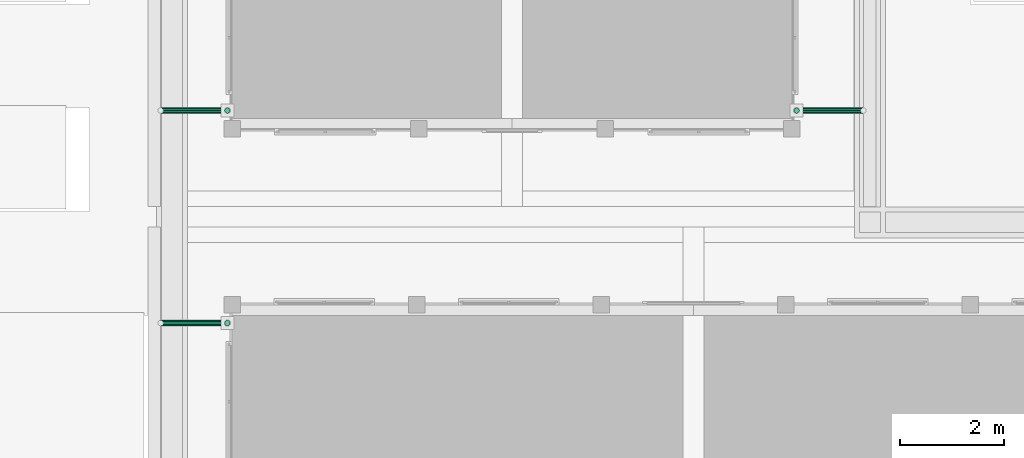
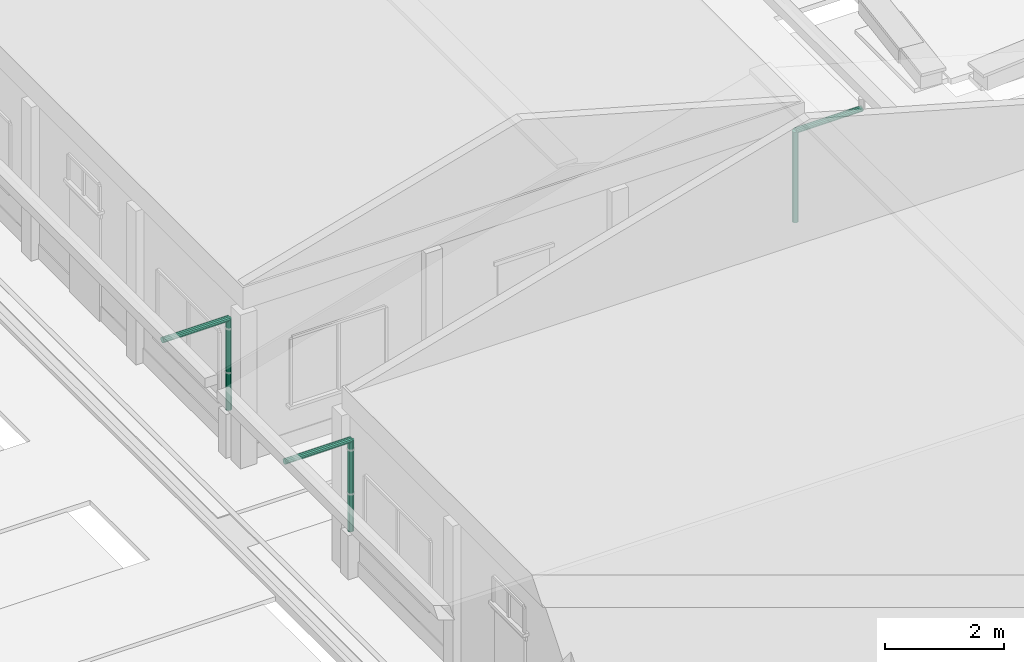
# One storey, part 100 of 177: 6 pipe segments.
"""IFC4 building model written with IfcOpenShell, lengths in metres."""

from ifc_helpers import new_model, si_unit, origin, origin_with_axes, place, context, subcontext, project, spatial, triangles, element, save


model = new_model("IFC4")

# Units and contexts
model_context = context("Model", 3, precision=1e-05, world=origin_with_axes())
body_context = subcontext(model_context, "Body", "Model", "MODEL_VIEW")
ifc_project = project(units=[si_unit("LENGTHUNIT", "METRE"), si_unit("AREAUNIT", "SQUARE_METRE"), si_unit("VOLUMEUNIT", "CUBIC_METRE"), si_unit("PLANEANGLEUNIT", "RADIAN")], contexts=[model_context])

# Site, building, storey
site_placement = place(None, origin_with_axes())
site = spatial("IfcSite", under=ifc_project, at=site_placement, Name="Predio Los Mangos - Morales, San Martín", CompositionType="ELEMENT")
building_placement = place(site_placement, origin())
building = spatial("IfcBuilding", under=site, at=building_placement, Name="Hogar de Refugio Temporal", CompositionType="ELEMENT")
storey_placement = place(building_placement, origin())
storey = spatial("IfcBuildingStorey", under=building, at=storey_placement, Name="NIVEL 1 (NPT +0.00)", CompositionType="ELEMENT", Elevation=0.0)

# Pipe segments
pipe_segment_1_placement = place(storey_placement, origin())
element("IfcPipeSegment", 1, at=pipe_segment_1_placement, inside=storey, Name="montante_desvio", ObjectType="Montante PVC 4\"", PredefinedType="RIGIDSEGMENT", context=body_context, shape_type="Tessellation", body=[
    triangles([(12.42, 48.35, 2.965), (13.71, 48.35, 2.965), (12.42, 48.3775, 2.9576), (13.71, 48.3775, 2.9576), (12.42, 48.3976, 2.9375), (13.71, 48.3976, 2.9375), (12.42, 48.405, 2.91), (13.71, 48.405, 2.91), (12.42, 48.3976, 2.8825), (13.71, 48.3976, 2.8825), (12.42, 48.3775, 2.8624), (13.71, 48.3775, 2.8624), (12.42, 48.35, 2.855), (13.71, 48.35, 2.855), (12.42, 48.3225, 2.8624), (13.71, 48.3225, 2.8624), (12.42, 48.3024, 2.8825), (13.71, 48.3024, 2.8825), (12.42, 48.295, 2.91), (13.71, 48.295, 2.91), (12.42, 48.3024, 2.9375), (13.71, 48.3024, 2.9375), (12.42, 48.3225, 2.9576), (13.71, 48.3225, 2.9576)], [[1, 2, 4], [1, 4, 3], [3, 4, 6], [3, 6, 5], [5, 6, 8], [5, 8, 7], [7, 8, 10], [7, 10, 9], [9, 10, 12], [9, 12, 11], [11, 12, 14], [11, 14, 13], [13, 14, 16], [13, 16, 15], [15, 16, 18], [15, 18, 17], [17, 18, 20], [17, 20, 19], [19, 20, 22], [19, 22, 21], [6, 4, 2], [2, 24, 22], [22, 20, 18], [18, 16, 14], [14, 12, 10], [10, 8, 6], [6, 2, 22], [22, 18, 14], [14, 10, 6], [22, 14, 6], [21, 22, 24], [21, 24, 23], [23, 24, 2], [23, 2, 1], [23, 1, 3], [3, 5, 7], [7, 9, 11], [11, 13, 15], [15, 17, 19], [19, 21, 23], [23, 3, 7], [7, 11, 15], [15, 19, 23], [7, 15, 23]]),
])
pipe_segment_2_placement = place(storey_placement, origin())
element("IfcPipeSegment", 2, at=pipe_segment_2_placement, inside=storey, Name="montante_bajada", ObjectType="Montante PVC 4\"", PredefinedType="RIGIDSEGMENT", context=body_context, shape_type="Tessellation", body=[
    triangles([(13.71, 48.405, 2.91), (13.71, 48.405, 1.05), (13.6825, 48.3976, 2.91), (13.6825, 48.3976, 1.05), (13.6624, 48.3775, 2.91), (13.6624, 48.3775, 1.05), (13.655, 48.35, 2.91), (13.655, 48.35, 1.05), (13.6624, 48.3225, 2.91), (13.6624, 48.3225, 1.05), (13.6825, 48.3024, 2.91), (13.6825, 48.3024, 1.05), (13.71, 48.295, 2.91), (13.71, 48.295, 1.05), (13.7375, 48.3024, 2.91), (13.7375, 48.3024, 1.05), (13.7576, 48.3225, 2.91), (13.7576, 48.3225, 1.05), (13.765, 48.35, 2.91), (13.765, 48.35, 1.05), (13.7576, 48.3775, 2.91), (13.7576, 48.3775, 1.05), (13.7375, 48.3976, 2.91), (13.7375, 48.3976, 1.05)], [[1, 2, 4], [1, 4, 3], [3, 4, 6], [3, 6, 5], [5, 6, 8], [5, 8, 7], [7, 8, 10], [7, 10, 9], [9, 10, 12], [9, 12, 11], [11, 12, 14], [11, 14, 13], [13, 14, 16], [13, 16, 15], [15, 16, 18], [15, 18, 17], [17, 18, 20], [17, 20, 19], [19, 20, 22], [19, 22, 21], [6, 4, 2], [2, 24, 22], [22, 20, 18], [18, 16, 14], [14, 12, 10], [10, 8, 6], [6, 2, 22], [22, 18, 14], [14, 10, 6], [22, 14, 6], [21, 22, 24], [21, 24, 23], [23, 24, 2], [23, 2, 1], [23, 1, 3], [3, 5, 7], [7, 9, 11], [11, 13, 15], [15, 17, 19], [19, 21, 23], [23, 3, 7], [7, 11, 15], [15, 19, 23], [7, 15, 23]]),
])
pipe_segment_3_placement = place(storey_placement, origin())
element("IfcPipeSegment", 3, at=pipe_segment_3_placement, inside=storey, Name="montante_desvio", ObjectType="Montante PVC 4\"", PredefinedType="RIGIDSEGMENT", context=body_context, shape_type="Tessellation", body=[
    triangles([(12.42, 52.45, 2.965), (13.71, 52.45, 2.965), (12.42, 52.4775, 2.9576), (13.71, 52.4775, 2.9576), (12.42, 52.4976, 2.9375), (13.71, 52.4976, 2.9375), (12.42, 52.505, 2.91), (13.71, 52.505, 2.91), (12.42, 52.4976, 2.8825), (13.71, 52.4976, 2.8825), (12.42, 52.4775, 2.8624), (13.71, 52.4775, 2.8624), (12.42, 52.45, 2.855), (13.71, 52.45, 2.855), (12.42, 52.4225, 2.8624), (13.71, 52.4225, 2.8624), (12.42, 52.4024, 2.8825), (13.71, 52.4024, 2.8825), (12.42, 52.395, 2.91), (13.71, 52.395, 2.91), (12.42, 52.4024, 2.9375), (13.71, 52.4024, 2.9375), (12.42, 52.4225, 2.9576), (13.71, 52.4225, 2.9576)], [[1, 2, 4], [1, 4, 3], [3, 4, 6], [3, 6, 5], [5, 6, 8], [5, 8, 7], [7, 8, 10], [7, 10, 9], [9, 10, 12], [9, 12, 11], [11, 12, 14], [11, 14, 13], [13, 14, 16], [13, 16, 15], [15, 16, 18], [15, 18, 17], [17, 18, 20], [17, 20, 19], [19, 20, 22], [19, 22, 21], [6, 4, 2], [2, 24, 22], [22, 20, 18], [18, 16, 14], [14, 12, 10], [10, 8, 6], [6, 2, 22], [22, 18, 14], [14, 10, 6], [22, 14, 6], [21, 22, 24], [21, 24, 23], [23, 24, 2], [23, 2, 1], [23, 1, 3], [3, 5, 7], [7, 9, 11], [11, 13, 15], [15, 17, 19], [19, 21, 23], [23, 3, 7], [7, 11, 15], [15, 19, 23], [7, 15, 23]]),
])
pipe_segment_4_placement = place(storey_placement, origin())
element("IfcPipeSegment", 4, at=pipe_segment_4_placement, inside=storey, Name="montante_bajada", ObjectType="Montante PVC 4\"", PredefinedType="RIGIDSEGMENT", context=body_context, shape_type="Tessellation", body=[
    triangles([(13.71, 52.505, 2.91), (13.71, 52.505, 1.05), (13.6825, 52.4976, 2.91), (13.6825, 52.4976, 1.05), (13.6624, 52.4775, 2.91), (13.6624, 52.4775, 1.05), (13.655, 52.45, 2.91), (13.655, 52.45, 1.05), (13.6624, 52.4225, 2.91), (13.6624, 52.4225, 1.05), (13.6825, 52.4024, 2.91), (13.6825, 52.4024, 1.05), (13.71, 52.395, 2.91), (13.71, 52.395, 1.05), (13.7375, 52.4024, 2.91), (13.7375, 52.4024, 1.05), (13.7576, 52.4225, 2.91), (13.7576, 52.4225, 1.05), (13.765, 52.45, 2.91), (13.765, 52.45, 1.05), (13.7576, 52.4775, 2.91), (13.7576, 52.4775, 1.05), (13.7375, 52.4976, 2.91), (13.7375, 52.4976, 1.05)], [[1, 2, 4], [1, 4, 3], [3, 4, 6], [3, 6, 5], [5, 6, 8], [5, 8, 7], [7, 8, 10], [7, 10, 9], [9, 10, 12], [9, 12, 11], [11, 12, 14], [11, 14, 13], [13, 14, 16], [13, 16, 15], [15, 16, 18], [15, 18, 17], [17, 18, 20], [17, 20, 19], [19, 20, 22], [19, 22, 21], [6, 4, 2], [2, 24, 22], [22, 20, 18], [18, 16, 14], [14, 12, 10], [10, 8, 6], [6, 2, 22], [22, 18, 14], [14, 10, 6], [22, 14, 6], [21, 22, 24], [21, 24, 23], [23, 24, 2], [23, 2, 1], [23, 1, 3], [3, 5, 7], [7, 9, 11], [11, 13, 15], [15, 17, 19], [19, 21, 23], [23, 3, 7], [7, 11, 15], [15, 19, 23], [7, 15, 23]]),
])
pipe_segment_5_placement = place(storey_placement, origin())
element("IfcPipeSegment", 5, at=pipe_segment_5_placement, inside=storey, Name="montante_desvio", ObjectType="Montante PVC 4\"", PredefinedType="RIGIDSEGMENT", context=body_context, shape_type="Tessellation", body=[
    triangles([(25.98, 52.45, 2.965), (24.69, 52.45, 2.965), (25.98, 52.4225, 2.9576), (24.69, 52.4225, 2.9576), (25.98, 52.4024, 2.9375), (24.69, 52.4024, 2.9375), (25.98, 52.395, 2.91), (24.69, 52.395, 2.91), (25.98, 52.4024, 2.8825), (24.69, 52.4024, 2.8825), (25.98, 52.4225, 2.8624), (24.69, 52.4225, 2.8624), (25.98, 52.45, 2.855), (24.69, 52.45, 2.855), (25.98, 52.4775, 2.8624), (24.69, 52.4775, 2.8624), (25.98, 52.4976, 2.8825), (24.69, 52.4976, 2.8825), (25.98, 52.505, 2.91), (24.69, 52.505, 2.91), (25.98, 52.4976, 2.9375), (24.69, 52.4976, 2.9375), (25.98, 52.4775, 2.9576), (24.69, 52.4775, 2.9576)], [[1, 2, 4], [1, 4, 3], [3, 4, 6], [3, 6, 5], [5, 6, 8], [5, 8, 7], [7, 8, 10], [7, 10, 9], [9, 10, 12], [9, 12, 11], [11, 12, 14], [11, 14, 13], [13, 14, 16], [13, 16, 15], [15, 16, 18], [15, 18, 17], [17, 18, 20], [17, 20, 19], [19, 20, 22], [19, 22, 21], [6, 4, 2], [2, 24, 22], [22, 20, 18], [18, 16, 14], [14, 12, 10], [10, 8, 6], [6, 2, 22], [22, 18, 14], [14, 10, 6], [22, 14, 6], [21, 22, 24], [21, 24, 23], [23, 24, 2], [23, 2, 1], [23, 1, 3], [3, 5, 7], [7, 9, 11], [11, 13, 15], [15, 17, 19], [19, 21, 23], [23, 3, 7], [7, 11, 15], [15, 19, 23], [7, 15, 23]]),
])
pipe_segment_6_placement = place(storey_placement, origin())
element("IfcPipeSegment", 6, at=pipe_segment_6_placement, inside=storey, Name="montante_bajada", ObjectType="Montante PVC 4\"", PredefinedType="RIGIDSEGMENT", context=body_context, shape_type="Tessellation", body=[
    triangles([(24.69, 52.505, 2.91), (24.69, 52.505, 1.05), (24.6625, 52.4976, 2.91), (24.6625, 52.4976, 1.05), (24.6424, 52.4775, 2.91), (24.6424, 52.4775, 1.05), (24.635, 52.45, 2.91), (24.635, 52.45, 1.05), (24.6424, 52.4225, 2.91), (24.6424, 52.4225, 1.05), (24.6625, 52.4024, 2.91), (24.6625, 52.4024, 1.05), (24.69, 52.395, 2.91), (24.69, 52.395, 1.05), (24.7175, 52.4024, 2.91), (24.7175, 52.4024, 1.05), (24.7376, 52.4225, 2.91), (24.7376, 52.4225, 1.05), (24.745, 52.45, 2.91), (24.745, 52.45, 1.05), (24.7376, 52.4775, 2.91), (24.7376, 52.4775, 1.05), (24.7175, 52.4976, 2.91), (24.7175, 52.4976, 1.05)], [[1, 2, 4], [1, 4, 3], [3, 4, 6], [3, 6, 5], [5, 6, 8], [5, 8, 7], [7, 8, 10], [7, 10, 9], [9, 10, 12], [9, 12, 11], [11, 12, 14], [11, 14, 13], [13, 14, 16], [13, 16, 15], [15, 16, 18], [15, 18, 17], [17, 18, 20], [17, 20, 19], [19, 20, 22], [19, 22, 21], [6, 4, 2], [2, 24, 22], [22, 20, 18], [18, 16, 14], [14, 12, 10], [10, 8, 6], [6, 2, 22], [22, 18, 14], [14, 10, 6], [22, 14, 6], [21, 22, 24], [21, 24, 23], [23, 24, 2], [23, 2, 1], [23, 1, 3], [3, 5, 7], [7, 9, 11], [11, 13, 15], [15, 17, 19], [19, 21, 23], [23, 3, 7], [7, 11, 15], [15, 19, 23], [7, 15, 23]]),
])

save(model, "model.ifc")
